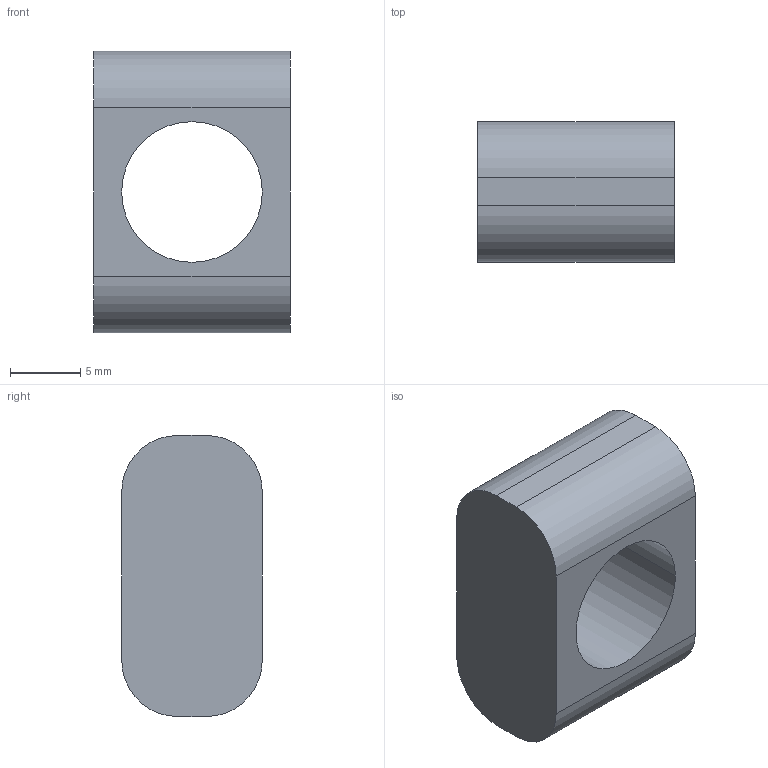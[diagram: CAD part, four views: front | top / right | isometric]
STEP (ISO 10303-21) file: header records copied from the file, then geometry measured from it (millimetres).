
FILE_DESCRIPTION (( 'STEP AP203' ), '1' );
FILE_NAME ('_____.stp_Défaut_sldprt.STEP', '2024-11-30T15:38:52', ( '' ), ( '' ), 'SwSTEP 2.0', 'SolidWorks 2023', '' );
FILE_SCHEMA (( 'CONFIG_CONTROL_DESIGN' ));
Length unit declared in the file: millimetre
Products named in the file (1): _____.stp_Défaut_sldprt
Bounding box: 14 x 10 x 20 mm (x, y, z)
Volume: 1721.7 mm3; surface area: 1432.2 mm2
Topology: 1 solids, 1 shells, 20 faces, 50 edges, 30 vertices
Faces by surface type: cylinder 10, plane 6, cone 4
Entity records: 655 total; most frequent: DIRECTION 108, CARTESIAN_POINT 97, ORIENTED_EDGE 92, EDGE_CURVE 46, AXIS2_PLACEMENT_3D 41, VERTEX_POINT 30, LINE 26, VECTOR 26
